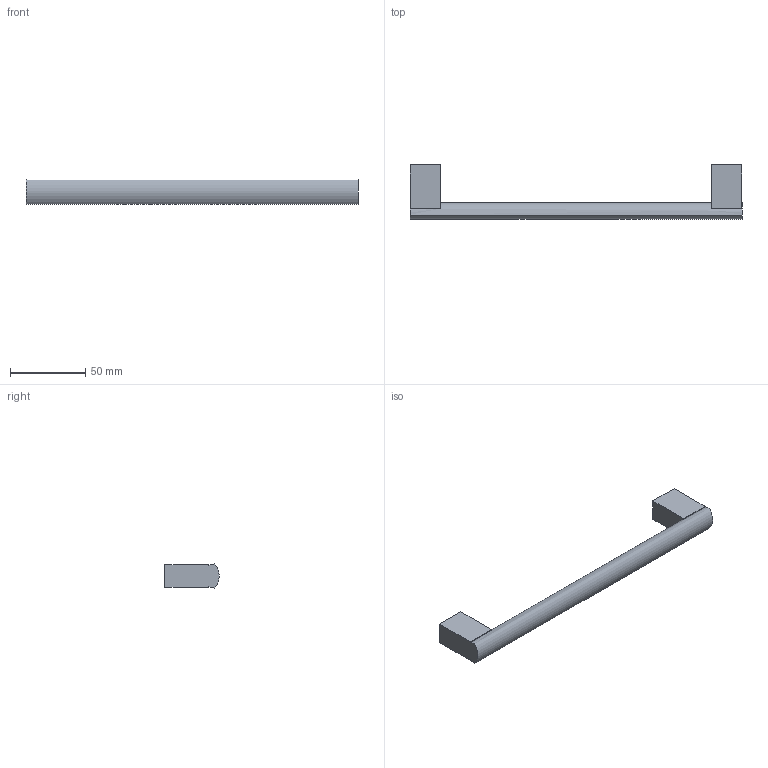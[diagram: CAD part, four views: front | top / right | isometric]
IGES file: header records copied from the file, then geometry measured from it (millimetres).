
Start section: Data from Parasolid IGES Translator 20.0.26, Copyright(c) 2006 Siemens P LM Software. All Rights Reserved.
Global section: file name: 115215.igs; native system: By Siemens PLM Incorporated; preprocessor: XPlus GENERIC/IGES 20.0.26; author: Noname; organization: Noname; date: 20230220.160745; units: millimetre
Bounding box: 220 x 35.96 x 16 mm (x, y, z)
Surface area: 13716.6 mm2 (no closed solid volume)
Topology: 0 solids, 0 shells, 22 faces, 102 edges, 100 vertices
Faces by surface type: extrusion 17, revolution 5
